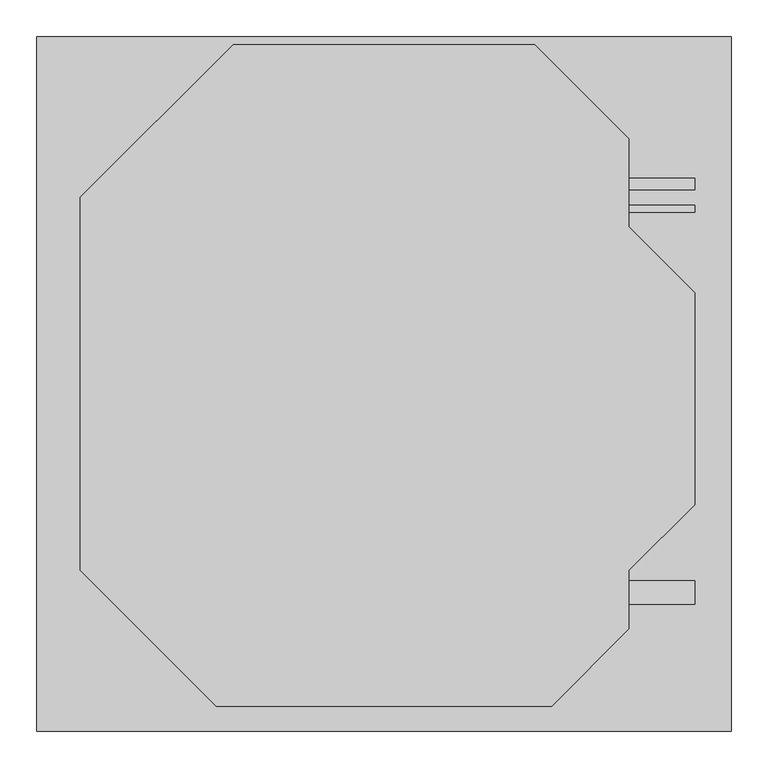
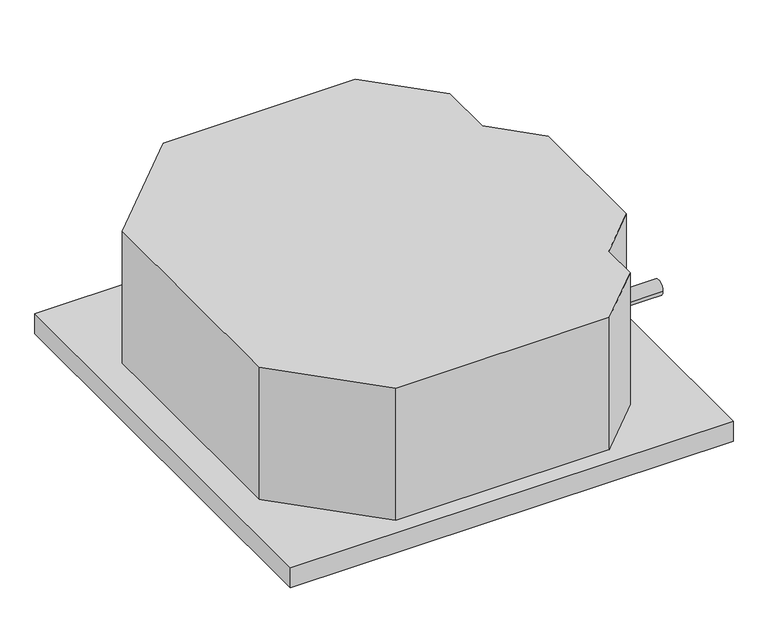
"""IFC4 building model written with IfcOpenShell, lengths in millimetres: proxy geometry, Midea_VRF_Indoor_4-way Cassette_MI-90(100,112,140)Q4_DHN1-D (2nd DC) : MI2-100Q4DHN1."""

from ifc_helpers import new_model, si_unit, point, frame, frame_2d, origin, origin_with_axes, place, context, project, spatial, polyline, circle_curve, trimmed, segment, composite_curve, outline, extrude, source, transform, mapped, element, save


def mechanical_equipment_53173f38(model_context):
    return source(origin(), model_context, "Body", "SweptSolid", [
        extrude(outline(polyline([(475.0, 475.0), (475.0, -475.0), (-475.0, -475.0), (-475.0, 475.0), (0.0, 475.0), (475.0, 475.0)])), origin_with_axes(), (0.0, 0.0, 1.0), 46.0),
        extrude(outline(polyline([(-206.4236999, 463.5763001), (206.4236999, 463.5763001), (335.0, 335.0), (335.0, 215.0), (425.0, 125.0), (425.0, -165.0), (335.0, -255.0), (335.0, -335.0), (229.5763001, -440.4236999), (-229.5763001, -440.4236999), (-415.0, -255.0), (-415.0, 255.0), (-206.4236999, 463.5763001)])), frame((0.0, 0.0, 46.0), z_axis=(0.0, 0.0, 1.0), x_axis=(1.0, 0.0, 0.0)), (0.0, 0.0, 1.0), 300.0),
        extrude(outline(composite_curve([segment(trimmed(circle_curve(frame_2d((239.4083718, 146.8446487)), 4.765), [point((234.6433718, 146.8446487))], [point((244.1733718, 146.8446487))], False, "CARTESIAN"), True, "CONTINUOUS"), segment(trimmed(circle_curve(frame_2d((239.4083718, 146.8446487)), 4.765), [point((244.1733718, 146.8446487))], [point((234.6433718, 146.8446487))], False, "CARTESIAN"), True, "CONTINUOUS")], self_intersect=False)), frame((335.0, 0.0, 0.0), z_axis=(1.0, 0.0, 0.0), x_axis=(0.0, 1.0, 0.0)), (0.0, 0.0, 1.0), 90.0),
        extrude(outline(composite_curve([segment(trimmed(circle_curve(frame_2d((-285.0, 252.3085101)), 16.0), [point((-269.0, 252.3085101))], [point((-301.0, 252.3085101))], False, "CARTESIAN"), True, "CONTINUOUS"), segment(trimmed(circle_curve(frame_2d((-285.0, 252.3085101)), 16.0), [point((-301.0, 252.3085101))], [point((-269.0, 252.3085101))], False, "CARTESIAN"), True, "CONTINUOUS")], self_intersect=False)), frame((335.0, 0.0, 0.0), z_axis=(1.0, 0.0, 0.0), x_axis=(0.0, 1.0, 0.0)), (0.0, 0.0, 1.0), 90.0),
        extrude(outline(composite_curve([segment(trimmed(circle_curve(frame_2d((273.2108137, 252.3085101)), 7.95), [point((281.1608137, 252.3085101))], [point((265.2608137, 252.3085101))], False, "CARTESIAN"), True, "CONTINUOUS"), segment(trimmed(circle_curve(frame_2d((273.2108137, 252.3085101)), 7.95), [point((265.2608137, 252.3085101))], [point((281.1608137, 252.3085101))], False, "CARTESIAN"), True, "CONTINUOUS")], self_intersect=False)), frame((335.0, 0.0, 0.0), z_axis=(1.0, 0.0, 0.0), x_axis=(0.0, 1.0, 0.0)), (0.0, 0.0, 1.0), 90.0),
    ])


if __name__ == "__main__":
    model = new_model("IFC4")
    model_context = context("Model", 3, world=origin())
    ifc_project = project(units=[si_unit("LENGTHUNIT", "METRE", prefix="MILLI")], contexts=[model_context])
    site = spatial("IfcSite", under=ifc_project)
    building = spatial("IfcBuilding", under=site)
    placement = place(None, origin())
    mechanical_equipment_shape = mechanical_equipment_53173f38(model_context)
    element("IfcBuildingElementProxy", 1, Name="Midea_VRF_Indoor_4-way Cassette_MI-90(100,112,140)Q4_DHN1-D (2nd DC) : MI2-100Q4DHN1", ObjectType="Midea_VRF_Indoor_4-way Cassette_MI-90(100,112,140)Q4_DHN1-D (2nd DC) : MI2-100Q4DHN1", at=placement, inside=building, context=model_context, shape_type="MappedRepresentation", body=[
        mapped(mechanical_equipment_shape, transform((0.0, 0.0, 0.0), x_axis=(1.0, 0.0, 0.0), y_axis=(0.0, 1.0, 0.0), z_axis=(0.0, 0.0, 1.0))),
    ])
    save(model, "model.ifc")
